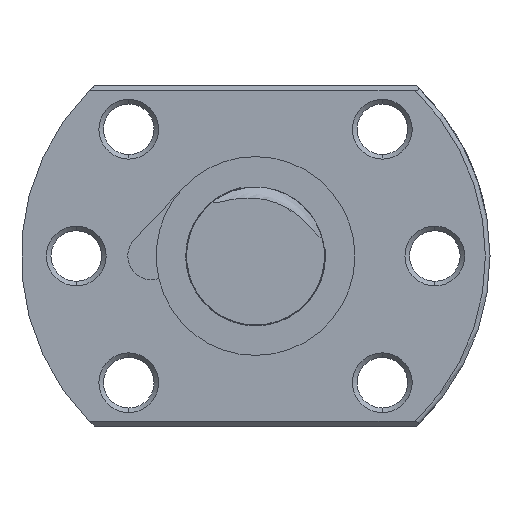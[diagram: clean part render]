
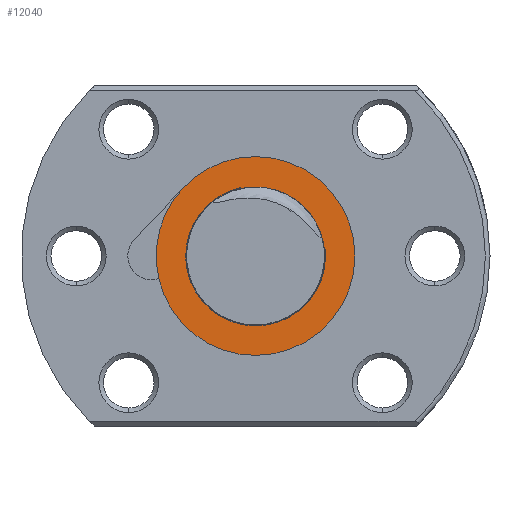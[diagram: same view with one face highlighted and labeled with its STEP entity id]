
A CAD part, left-side view. The second image highlights one B-rep face of the part: STEP entity #12040.
In plain terms, the highlighted planar face has unit normal (-1, 0, 0).
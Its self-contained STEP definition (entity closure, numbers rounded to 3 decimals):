
#141 = CARTESIAN_POINT ( 'NONE',  ( -46.8, -7.545, 0.914 ) ) ;
#209 = CARTESIAN_POINT ( 'NONE',  ( -46.8, 0., 10.813 ) ) ;
#210 = CARTESIAN_POINT ( 'NONE',  ( -46.8, 0., -10.813 ) ) ;
#211 = DIRECTION ( 'NONE',  ( 0., 0., 1. ) ) ;
#212 = DIRECTION ( 'NONE',  ( -1., 0., 0. ) ) ;
#213 = CARTESIAN_POINT ( 'NONE',  ( -46.8, 0., 0. ) ) ;
#214 = AXIS2_PLACEMENT_3D ( 'NONE', #213, #212, #211 ) ;
#215 = CIRCLE ( 'NONE', #214, 10.813 ) ;
#257 = CARTESIAN_POINT ( 'NONE',  ( -46.8, 0., -7.6 ) ) ;
#288 = CARTESIAN_POINT ( 'NONE',  ( -46.8, 0., 0. ) ) ;
#289 = AXIS2_PLACEMENT_3D ( 'NONE', #288, #329, #328 ) ;
#290 = CIRCLE ( 'NONE', #289, 7.6 ) ;
#328 = DIRECTION ( 'NONE',  ( 0., 0., 1. ) ) ;
#329 = DIRECTION ( 'NONE',  ( -1., 0., 0. ) ) ;
#365 = CARTESIAN_POINT ( 'NONE',  ( -46.8, 0., 0. ) ) ;
#462 = CARTESIAN_POINT ( 'NONE',  ( -46.8, 10.528, -2.466 ) ) ;
#463 = DIRECTION ( 'NONE',  ( 0., 0., 1. ) ) ;
#464 = DIRECTION ( 'NONE',  ( -1., 0., 0. ) ) ;
#465 = AXIS2_PLACEMENT_3D ( 'NONE', #470, #464, #463 ) ;
#466 = CIRCLE ( 'NONE', #465, 10.813 ) ;
#470 = CARTESIAN_POINT ( 'NONE',  ( -46.8, 0., 0. ) ) ;
#529 = CARTESIAN_POINT ( 'NONE',  ( -46.8, 7.861, 7.423 ) ) ;
#530 = DIRECTION ( 'NONE',  ( 0., 0., 1. ) ) ;
#531 = DIRECTION ( 'NONE',  ( -1., 0., 0. ) ) ;
#532 = AXIS2_PLACEMENT_3D ( 'NONE', #365, #531, #530 ) ;
#533 = CIRCLE ( 'NONE', #532, 10.813 ) ;
#11753 = VERTEX_POINT ( 'NONE', #141 ) ;
#11754 = VERTEX_POINT ( 'NONE', #257 ) ;
#11770 = EDGE_CURVE ( 'NONE', #11754, #11753, #290, .T. ) ;
#11813 = EDGE_CURVE ( 'NONE', #11814, #11815, #215, .T. ) ;
#11814 = VERTEX_POINT ( 'NONE', #210 ) ;
#11815 = VERTEX_POINT ( 'NONE', #209 ) ;
#11850 = EDGE_CURVE ( 'NONE', #11815, #11851, #533, .T. ) ;
#11851 = VERTEX_POINT ( 'NONE', #529 ) ;
#11905 = EDGE_CURVE ( 'NONE', #11906, #11814, #466, .T. ) ;
#11906 = VERTEX_POINT ( 'NONE', #462 ) ;
#11989 = EDGE_LOOP ( 'NONE', ( #11990, #11991, #12272 ) ) ;
#11990 = ORIENTED_EDGE ( 'NONE', *, *, #12229, .F. ) ;
#11991 = ORIENTED_EDGE ( 'NONE', *, *, #11992, .F. ) ;
#11992 = EDGE_CURVE ( 'NONE', #11753, #12227, #14779, .T. ) ;
#12040 = ADVANCED_FACE ( 'NONE', ( #14660, #14659 ), #14658, .T. ) ;
#12090 = ORIENTED_EDGE ( 'NONE', *, *, #11813, .T. ) ;
#12161 = ORIENTED_EDGE ( 'NONE', *, *, #11850, .T. ) ;
#12197 = ORIENTED_EDGE ( 'NONE', *, *, #12238, .T. ) ;
#12227 = VERTEX_POINT ( 'NONE', #15348 ) ;
#12229 = EDGE_CURVE ( 'NONE', #12227, #11754, #15373, .T. ) ;
#12238 = EDGE_CURVE ( 'NONE', #11851, #11906, #15422, .T. ) ;
#12239 = ORIENTED_EDGE ( 'NONE', *, *, #11905, .T. ) ;
#12262 = EDGE_LOOP ( 'NONE', ( #12197, #12239, #12090, #12161 ) ) ;
#12272 = ORIENTED_EDGE ( 'NONE', *, *, #11770, .F. ) ;
#14654 = DIRECTION ( 'NONE',  ( 0., 0., 1. ) ) ;
#14655 = DIRECTION ( 'NONE',  ( -1., 0., 0. ) ) ;
#14656 = CARTESIAN_POINT ( 'NONE',  ( -46.8, 0., 7.6 ) ) ;
#14657 = AXIS2_PLACEMENT_3D ( 'NONE', #14656, #14655, #14654 ) ;
#14658 = PLANE ( 'NONE',  #14657 ) ;
#14659 = FACE_OUTER_BOUND ( 'NONE', #12262, .T. ) ;
#14660 = FACE_BOUND ( 'NONE', #11989, .T. ) ;
#14747 = CARTESIAN_POINT ( 'NONE',  ( -46.8, 4.105, 6.396 ) ) ;
#14748 = CARTESIAN_POINT ( 'NONE',  ( -46.8, 4.04, 6.364 ) ) ;
#14749 = CARTESIAN_POINT ( 'NONE',  ( -46.8, 3.969, 6.344 ) ) ;
#14750 = CARTESIAN_POINT ( 'NONE',  ( -46.8, 3.825, 6.318 ) ) ;
#14751 = CARTESIAN_POINT ( 'NONE',  ( -46.8, 3.752, 6.311 ) ) ;
#14752 = CARTESIAN_POINT ( 'NONE',  ( -46.8, 3.535, 6.3 ) ) ;
#14753 = CARTESIAN_POINT ( 'NONE',  ( -46.8, 3.39, 6.304 ) ) ;
#14754 = CARTESIAN_POINT ( 'NONE',  ( -46.8, 2.958, 6.327 ) ) ;
#14755 = CARTESIAN_POINT ( 'NONE',  ( -46.8, 2.67, 6.355 ) ) ;
#14756 = CARTESIAN_POINT ( 'NONE',  ( -46.8, 1.806, 6.423 ) ) ;
#14757 = CARTESIAN_POINT ( 'NONE',  ( -46.8, 1.229, 6.448 ) ) ;
#14758 = CARTESIAN_POINT ( 'NONE',  ( -46.8, 0.367, 6.406 ) ) ;
#14759 = CARTESIAN_POINT ( 'NONE',  ( -46.8, 0.08, 6.38 ) ) ;
#14760 = CARTESIAN_POINT ( 'NONE',  ( -46.8, -0.491, 6.301 ) ) ;
#14761 = CARTESIAN_POINT ( 'NONE',  ( -46.8, -0.775, 6.247 ) ) ;
#14762 = CARTESIAN_POINT ( 'NONE',  ( -46.8, -1.607, 6.046 ) ) ;
#14763 = CARTESIAN_POINT ( 'NONE',  ( -46.8, -2.143, 5.859 ) ) ;
#14764 = CARTESIAN_POINT ( 'NONE',  ( -46.8, -3.173, 5.372 ) ) ;
#14765 = CARTESIAN_POINT ( 'NONE',  ( -46.8, -3.672, 5.068 ) ) ;
#14766 = CARTESIAN_POINT ( 'NONE',  ( -46.8, -4.58, 4.38 ) ) ;
#14767 = CARTESIAN_POINT ( 'NONE',  ( -46.8, -4.995, 3.994 ) ) ;
#14768 = CARTESIAN_POINT ( 'NONE',  ( -46.8, -5.76, 3.152 ) ) ;
#14769 = CARTESIAN_POINT ( 'NONE',  ( -46.8, -6.108, 2.692 ) ) ;
#14770 = CARTESIAN_POINT ( 'NONE',  ( -46.8, -6.604, 1.986 ) ) ;
#14771 = CARTESIAN_POINT ( 'NONE',  ( -46.8, -6.765, 1.748 ) ) ;
#14772 = CARTESIAN_POINT ( 'NONE',  ( -46.8, -7.023, 1.401 ) ) ;
#14773 = CARTESIAN_POINT ( 'NONE',  ( -46.8, -7.111, 1.287 ) ) ;
#14774 = CARTESIAN_POINT ( 'NONE',  ( -46.8, -7.258, 1.128 ) ) ;
#14775 = CARTESIAN_POINT ( 'NONE',  ( -46.8, -7.308, 1.078 ) ) ;
#14776 = CARTESIAN_POINT ( 'NONE',  ( -46.8, -7.419, 0.986 ) ) ;
#14777 = CARTESIAN_POINT ( 'NONE',  ( -46.8, -7.479, 0.943 ) ) ;
#14778 = CARTESIAN_POINT ( 'NONE',  ( -46.8, -7.545, 0.914 ) ) ;
#14779 = B_SPLINE_CURVE_WITH_KNOTS ( 'NONE', 3,
 ( #14778, #14777, #14776, #14775, #14774, #14773, #14772, #14771, #14770, #14769, #14768, #14767, #14766, #14765, #14764, #14763, #14762, #14761, #14760, #14759, #14758, #14757, #14756, #14755, #14754, #14753, #14752, #14751, #14750, #14749, #14748, #14747 ),
 .UNSPECIFIED., .F., .F.,
 ( 4, 2, 2, 2, 2, 2, 2, 2, 2, 2, 2, 2, 2, 2, 2, 4 ),
 ( 0.02, 0.02, 0.02, 0.021, 0.021, 0.023, 0.025, 0.027, 0.028, 0.029, 0.03, 0.032, 0.033, 0.033, 0.033, 0.034 ),
 .UNSPECIFIED. ) ;
#15348 = CARTESIAN_POINT ( 'NONE',  ( -46.8, 4.105, 6.396 ) ) ;
#15350 = CARTESIAN_POINT ( 'NONE',  ( -46.8, 0., 0. ) ) ;
#15363 = DIRECTION ( 'NONE',  ( 0., 0., 1. ) ) ;
#15364 = DIRECTION ( 'NONE',  ( -1., 0., 0. ) ) ;
#15365 = AXIS2_PLACEMENT_3D ( 'NONE', #15350, #15364, #15363 ) ;
#15373 = CIRCLE ( 'NONE', #15365, 7.6 ) ;
#15418 = DIRECTION ( 'NONE',  ( 0., 0., 1. ) ) ;
#15419 = DIRECTION ( 'NONE',  ( -1., 0., 0. ) ) ;
#15420 = CARTESIAN_POINT ( 'NONE',  ( -46.8, 0., 0. ) ) ;
#15421 = AXIS2_PLACEMENT_3D ( 'NONE', #15420, #15419, #15418 ) ;
#15422 = CIRCLE ( 'NONE', #15421, 10.813 ) ;
